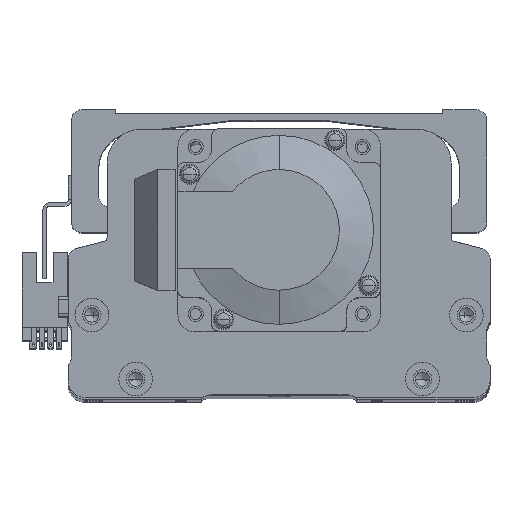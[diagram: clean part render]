
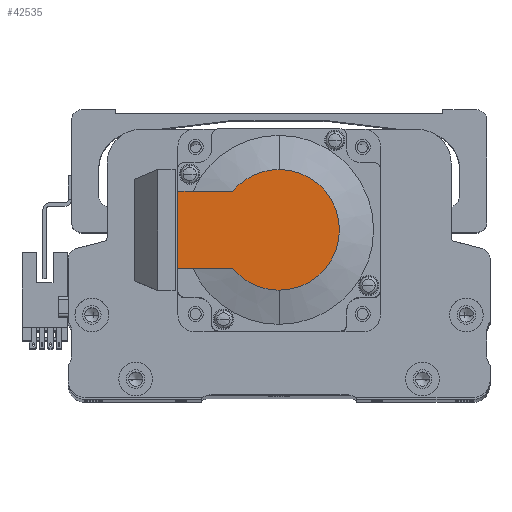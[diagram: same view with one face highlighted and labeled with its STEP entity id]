
A CAD part, top view. The second image highlights one B-rep face of the part: STEP entity #42535.
In plain terms, the highlighted planar face has unit normal (0, 0, 1) as drawn and (-1, 0, 0) by its records, which use the part's own axes.
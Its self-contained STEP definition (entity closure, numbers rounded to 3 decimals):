
#486 = AXIS2_PLACEMENT_3D ( 'NONE', #48256, #24485, #595 ) ;
#595 = DIRECTION ( 'NONE',  ( 0., 0., -1. ) ) ;
#3127 = CARTESIAN_POINT ( 'NONE',  ( -118.5, 0., 0. ) ) ;
#4899 = CIRCLE ( 'NONE', #32065, 17.881 ) ;
#5567 = VECTOR ( 'NONE', #45199, 1000. ) ;
#6211 = DIRECTION ( 'NONE',  ( 0., 0., 1. ) ) ;
#6390 = VERTEX_POINT ( 'NONE', #7548 ) ;
#6977 = ORIENTED_EDGE ( 'NONE', *, *, #33741, .T. ) ;
#7148 = DIRECTION ( 'NONE',  ( 0., 0., -1. ) ) ;
#7548 = CARTESIAN_POINT ( 'NONE',  ( -118.5, 0., 17.881 ) ) ;
#8132 = ORIENTED_EDGE ( 'NONE', *, *, #42865, .F. ) ;
#9619 = VECTOR ( 'NONE', #6211, 1000. ) ;
#9741 = CARTESIAN_POINT ( 'NONE',  ( -118.5, 0., 0. ) ) ;
#10752 = CARTESIAN_POINT ( 'NONE',  ( -118.5, -8.941, 0. ) ) ;
#12241 = ORIENTED_EDGE ( 'NONE', *, *, #19111, .F. ) ;
#12866 = VERTEX_POINT ( 'NONE', #24624 ) ;
#13097 = CARTESIAN_POINT ( 'NONE',  ( -118.5, 13.735, 11.45 ) ) ;
#13735 = DIRECTION ( 'NONE',  ( 0., 0., -1. ) ) ;
#13869 = CARTESIAN_POINT ( 'NONE',  ( -118.5, 0., -17.881 ) ) ;
#14779 = DIRECTION ( 'NONE',  ( 0., 0., 1. ) ) ;
#16099 = EDGE_CURVE ( 'NONE', #39540, #6390, #4899, .T. ) ;
#16933 = CARTESIAN_POINT ( 'NONE',  ( -118.5, -8.941, -11.45 ) ) ;
#18598 = LINE ( 'NONE', #16933, #29157 ) ;
#19111 = EDGE_CURVE ( 'NONE', #35068, #46031, #26780, .T. ) ;
#19496 = EDGE_CURVE ( 'NONE', #6390, #46031, #42200, .T. ) ;
#19560 = AXIS2_PLACEMENT_3D ( 'NONE', #9741, #37557, #13735 ) ;
#20964 = FACE_OUTER_BOUND ( 'NONE', #35401, .T. ) ;
#24485 = DIRECTION ( 'NONE',  ( -1., 0., 0. ) ) ;
#24624 = CARTESIAN_POINT ( 'NONE',  ( -118.5, 13.735, -11.45 ) ) ;
#26780 = LINE ( 'NONE', #29584, #5567 ) ;
#29157 = VECTOR ( 'NONE', #40708, 1000. ) ;
#29584 = CARTESIAN_POINT ( 'NONE',  ( -118.5, 0., 11.45 ) ) ;
#30464 = PLANE ( 'NONE',  #48643 ) ;
#30998 = DIRECTION ( 'NONE',  ( -1., 0., 0. ) ) ;
#31280 = EDGE_CURVE ( 'NONE', #51120, #12866, #18598, .T. ) ;
#32065 = AXIS2_PLACEMENT_3D ( 'NONE', #3127, #30998, #7148 ) ;
#32694 = ORIENTED_EDGE ( 'NONE', *, *, #19496, .T. ) ;
#33741 = EDGE_CURVE ( 'NONE', #12866, #39540, #37397, .T. ) ;
#34041 = CARTESIAN_POINT ( 'NONE',  ( -118.5, 30., 25. ) ) ;
#35068 = VERTEX_POINT ( 'NONE', #40845 ) ;
#35401 = EDGE_LOOP ( 'NONE', ( #51152, #6977, #40740, #32694, #12241, #8132 ) ) ;
#37397 = CIRCLE ( 'NONE', #19560, 17.881 ) ;
#37557 = DIRECTION ( 'NONE',  ( -1., 0., 0. ) ) ;
#38575 = DIRECTION ( 'NONE',  ( -1., 0., 0. ) ) ;
#39540 = VERTEX_POINT ( 'NONE', #13869 ) ;
#40708 = DIRECTION ( 'NONE',  ( 0., -1., 0. ) ) ;
#40740 = ORIENTED_EDGE ( 'NONE', *, *, #16099, .T. ) ;
#40845 = CARTESIAN_POINT ( 'NONE',  ( -118.5, 30., 11.45 ) ) ;
#42200 = CIRCLE ( 'NONE', #486, 17.881 ) ;
#42535 = ADVANCED_FACE ( 'NONE', ( #20964 ), #30464, .T. ) ;
#42865 = EDGE_CURVE ( 'NONE', #51120, #35068, #50685, .T. ) ;
#45199 = DIRECTION ( 'NONE',  ( 0., -1., 0. ) ) ;
#46031 = VERTEX_POINT ( 'NONE', #13097 ) ;
#46886 = CARTESIAN_POINT ( 'NONE',  ( -118.5, 30., -11.45 ) ) ;
#48256 = CARTESIAN_POINT ( 'NONE',  ( -118.5, 0., 0. ) ) ;
#48643 = AXIS2_PLACEMENT_3D ( 'NONE', #10752, #38575, #14779 ) ;
#50685 = LINE ( 'NONE', #34041, #9619 ) ;
#51120 = VERTEX_POINT ( 'NONE', #46886 ) ;
#51152 = ORIENTED_EDGE ( 'NONE', *, *, #31280, .T. ) ;
